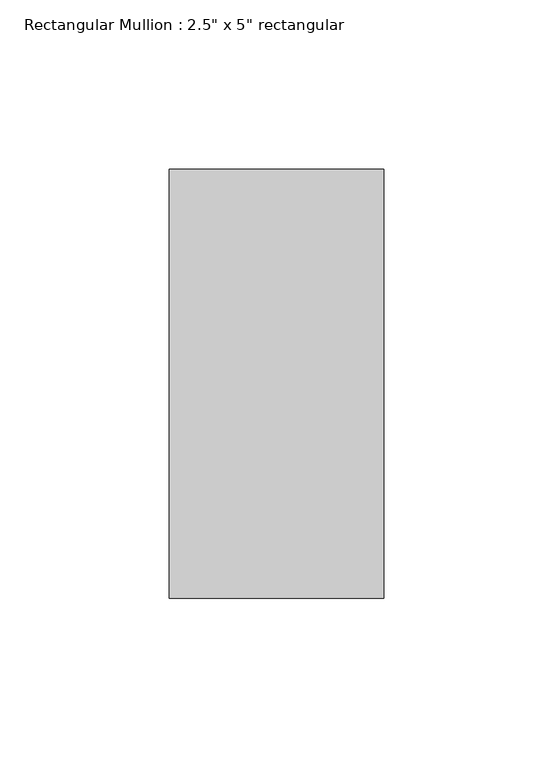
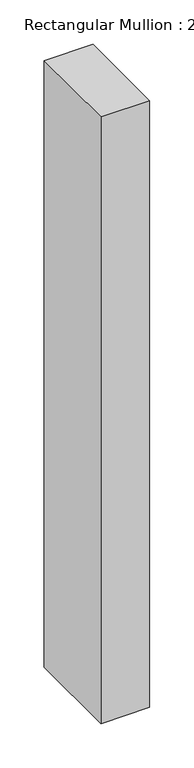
"""IFC4 building model written with IfcOpenShell, lengths in millimetres: member geometry."""

from ifc_helpers import new_model, si_unit, frame, origin, place, context, project, spatial, polyline, outline, extrude, source, transform, mapped, element, save


def member_bfeb061a(model_context):
    return source(origin(), model_context, "Body", "SweptSolid", [
        extrude(outline(polyline([(31.75, 63.5), (31.75, -63.5), (-31.75, -63.5), (-31.75, 63.5), (31.75, 63.5)])), frame((0.0, 0.0, -832.2244128), z_axis=(0.0, 0.0, 1.0), x_axis=(1.0, 0.0, 0.0)), (0.0, 0.0, 1.0), 832.2244128),
    ])


if __name__ == "__main__":
    model = new_model("IFC4")
    model_context = context("Model", 3, world=origin())
    ifc_project = project(units=[si_unit("LENGTHUNIT", "METRE", prefix="MILLI")], contexts=[model_context])
    site = spatial("IfcSite", under=ifc_project)
    building = spatial("IfcBuilding", under=site)
    placement = place(None, origin())
    member_shape = member_bfeb061a(model_context)
    element("IfcMember", 1, ObjectType="Rectangular Mullion : 2.5\" x 5\" rectangular", at=placement, inside=building, context=model_context, shape_type="MappedRepresentation", body=[
        mapped(member_shape, transform((0.0, 0.0, 0.0), x_axis=(1.0, 0.0, 0.0), y_axis=(0.0, 1.0, 0.0), z_axis=(0.0, 0.0, 1.0))),
    ])
    save(model, "model.ifc")
